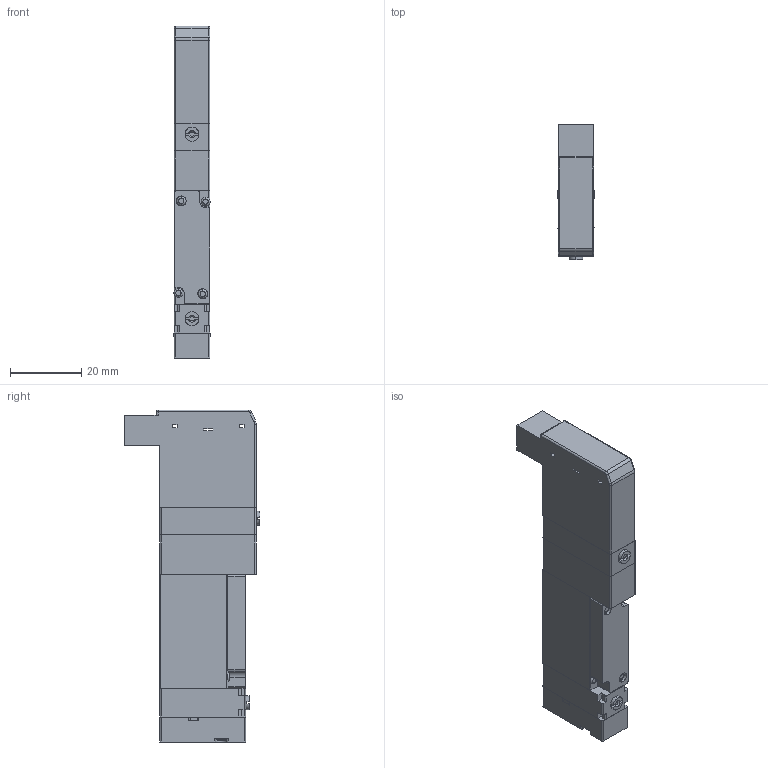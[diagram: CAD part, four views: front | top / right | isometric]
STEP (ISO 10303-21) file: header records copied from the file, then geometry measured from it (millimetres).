
FILE_DESCRIPTION( (''), '2;1');
FILE_NAME ('CVICAD02.13484.F10T2-A1_5872.stp','2020-09-01T14:10:39',(''),(''),'spGate 12.6.6','','');
FILE_SCHEMA (('AUTOMOTIVE_DESIGN'));
Length unit declared in the file: millimetre
Products named in the file (8): Assembly; F10_Adptor; F_3PortBody; F10_Cap; F_Connector-L; F10T_Body; F10_SwitchBlock; F10_A1
Assembly tree (7 placements, depth 2):
  Assembly
    F10_Adptor
    F_3PortBody
    F10_Cap
    F_Connector-L
    F10T_Body
    F10_SwitchBlock
    F10_A1
Bounding box: 10.2 x 38 x 93 mm (x, y, z)
Volume: 24157.9 mm3; surface area: 11040.9 mm2
Topology: 7 solids, 7 shells, 222 faces, 562 edges, 366 vertices
Faces by surface type: plane 123, cylinder 73, bspline 24, sphere 2
Entity records: 11752 total; most frequent: CARTESIAN_POINT 1651, DIRECTION 1139, ORIENTED_EDGE 1120, COLOUR_RGB 789, PRESENTATION_STYLE_ASSIGNMENT 789, STYLED_ITEM 789, EDGE_CURVE 560, DRAUGHTING_PRE_DEFINED_CURVE_FONT 560
